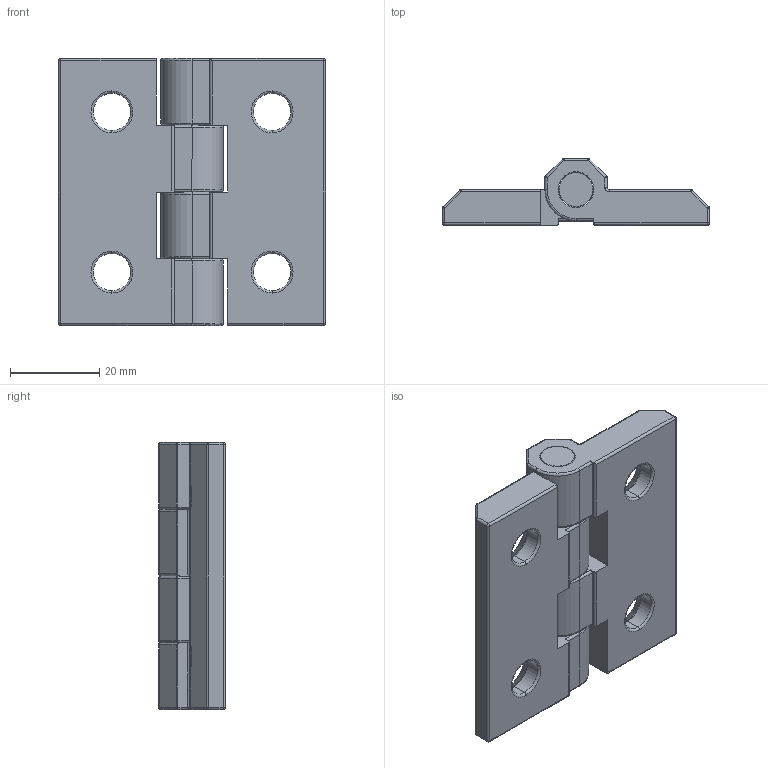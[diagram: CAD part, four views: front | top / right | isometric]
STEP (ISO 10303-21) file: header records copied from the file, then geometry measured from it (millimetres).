
FILE_DESCRIPTION (( 'STEP AP203' ), '1' );
FILE_NAME ('XG02-067-1.STEP', '2023-12-09T03:29:13', ( '' ), ( '' ), 'SwSTEP 2.0', 'SolidWorks 2020', '' );
FILE_SCHEMA (( 'CONFIG_CONTROL_DESIGN' ));
Length unit declared in the file: millimetre
Products named in the file (3): XG02-067-1; CL226-1_CL226-1B; 錨璃2
Assembly tree (3 placements, depth 2):
  XG02-067-1
    CL226-1_CL226-1B  x2
    錨璃2
Bounding box: 60 x 15 x 60 mm (x, y, z)
Volume: 27684.8 mm3; surface area: 13861.5 mm2
Topology: 3 solids, 3 shells, 262 faces, 606 edges, 328 vertices
Faces by surface type: cylinder 114, bspline 88, plane 52, cone 8
Entity records: 5052 total; most frequent: CARTESIAN_POINT 1932, ORIENTED_EDGE 594, DIRECTION 591, EDGE_CURVE 297, AXIS2_PLACEMENT_3D 229, VERTEX_POINT 166, EDGE_LOOP 139, CIRCLE 134
